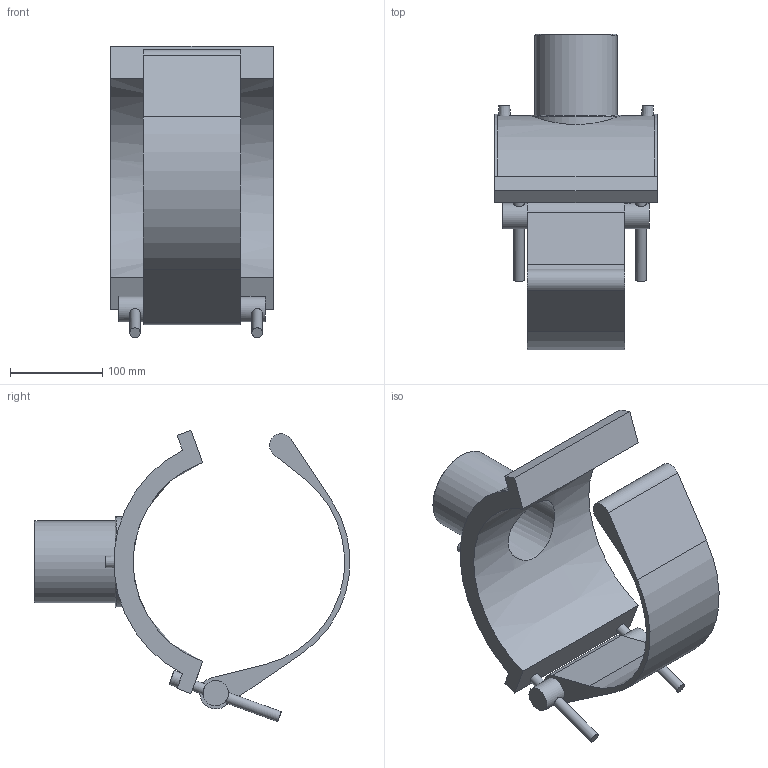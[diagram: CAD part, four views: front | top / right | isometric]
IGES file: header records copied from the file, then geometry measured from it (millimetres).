
Global section: file name: 5958DB03080030.ipt; native system: Autodesk Inventor 2019; preprocessor: unknown; author: KIM; date: 20210830.101324; units: inch
Bounding box: 176.02 x 341.31 x 315.12 mm (x, y, z)
Volume: 1775886.8 mm3; surface area: 292704.4 mm2
Topology: 1 solids, 1 shells, 58 faces, 128 edges, 88 vertices
Faces by surface type: plane 30, cylinder 19, revolution 6, cone 3
Full cylindrical faces by diameter (mm): 4 x2, 11.445 x4, 16.023 x2, 27.468 x2, 88.7 x1
